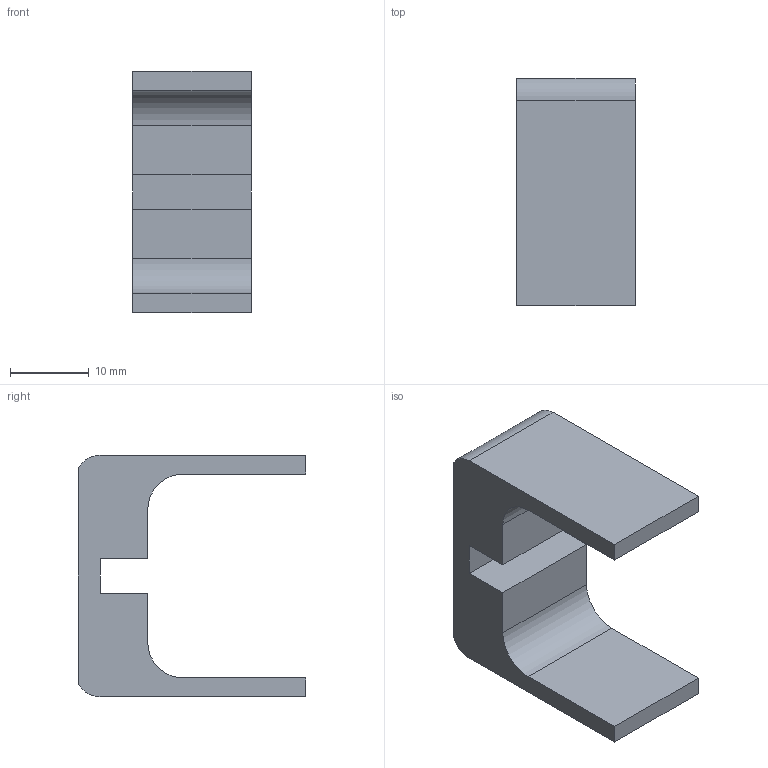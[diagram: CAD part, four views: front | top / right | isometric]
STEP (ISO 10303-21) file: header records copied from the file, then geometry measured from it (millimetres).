
FILE_DESCRIPTION(/* description */ (''),/* implementation_level */ '2;1');
FILE_NAME(/* name */ 'C:/Users/jmdel/Desktop/Mr.Snow/Glock Sight Tool/GL_sight_alignment_tool.step',/* time_stamp */ '2022-01-11T21:09:48-05:00',/* author */ (''),/* organization */ (''),/* preprocessor_version */ 'ST-DEVELOPER v18.1',/* originating_system */ 'Autodesk Translation Framework v10.10.0.1391',/* authorisation */ '');
FILE_SCHEMA (('AUTOMOTIVE_DESIGN { 1 0 10303 214 3 1 1 }'));
Length unit declared in the file: millimetre
Products named in the file (1): Snow-G-Sight
Bounding box: 15 x 28.8 x 30.6 mm (x, y, z)
Volume: 5111.4 mm3; surface area: 3453 mm2
Topology: 1 solids, 1 shells, 330 faces, 954 edges, 636 vertices
Faces by surface type: plane 176, bspline 150, cylinder 4
Entity records: 11183 total; most frequent: CARTESIAN_POINT 3775, ORIENTED_EDGE 1908, DIRECTION 1104, EDGE_CURVE 954, LINE 646, VECTOR 646, VERTEX_POINT 636, EDGE_LOOP 340
